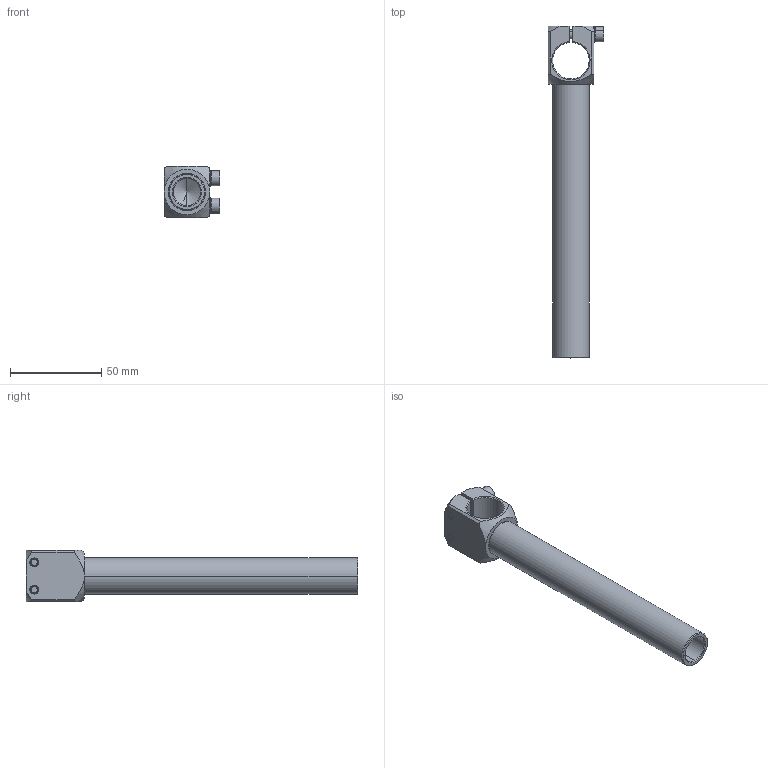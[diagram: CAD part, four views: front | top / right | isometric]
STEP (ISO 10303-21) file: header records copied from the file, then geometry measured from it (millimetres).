
FILE_DESCRIPTION (( 'STEP AP214' ), '1' );
FILE_NAME ('7.Y00997.STEP', '2021-04-20T02:03:34', ( '微软用户' ), ( '微软中国' ), 'SwSTEP 2.0', 'SolidWorks 2018', '' );
FILE_SCHEMA (( 'AUTOMOTIVE_DESIGN' ));
Length unit declared in the file: millimetre
Products named in the file (4): PTS-M5; PTC-M5L25; 2.Y07384; 7.Y00997
Assembly tree (5 placements, depth 2):
  7.Y00997
    2.Y07384
    PTC-M5L25  x2
    PTS-M5  x2
Bounding box: 30.55 x 182 x 28 mm (x, y, z)
Volume: 34937.1 mm3; surface area: 24127 mm2
Topology: 5 solids, 5 shells, 501 faces, 1408 edges, 917 vertices
Faces by surface type: plane 426, cylinder 35, cone 34, torus 6
Entity records: 9296 total; most frequent: CARTESIAN_POINT 1704, DIRECTION 1602, ORIENTED_EDGE 1544, EDGE_CURVE 772, AXIS2_PLACEMENT_3D 561, VERTEX_POINT 501, VECTOR 480, LINE 480
